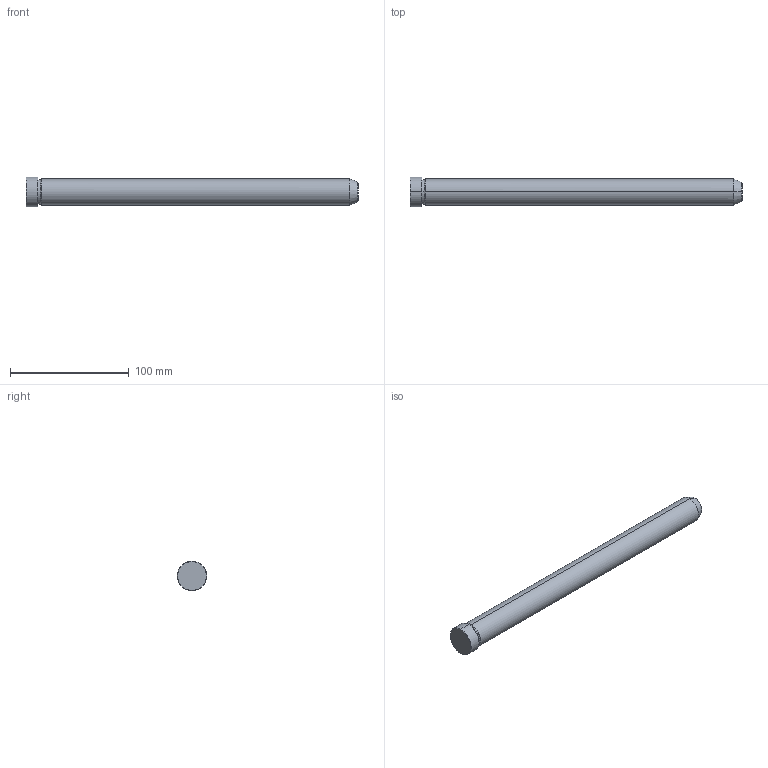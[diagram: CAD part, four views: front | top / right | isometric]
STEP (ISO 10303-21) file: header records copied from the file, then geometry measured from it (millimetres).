
FILE_DESCRIPTION(('CATIA V5 STEP Exchange'),'2;1');
FILE_NAME('C:\Users\Utente\Desktop\IO LAVORO\3D X SITO CF\X SITO\PLASTICA\549\549-22X280.stp','2021-12-13T13:02:02+00:00',('none'),('none'),'CATIA Version 5 Release 20 GA (IN-10)','CATIA V5 STEP AP203','none');
FILE_SCHEMA(('CONFIG_CONTROL_DESIGN'));
Length unit declared in the file: millimetre
Products named in the file (1): 549-22X280
Bounding box: 280 x 25 x 25 mm (x, y, z)
Volume: 106825.7 mm3; surface area: 20227.6 mm2
Topology: 1 solids, 1 shells, 19 faces, 56 edges, 40 vertices
Faces by surface type: cone 8, cylinder 6, plane 3, torus 2
Entity records: 736 total; most frequent: CARTESIAN_POINT 192, ORIENTED_EDGE 112, DIRECTION 86, EDGE_CURVE 56, AXIS2_PLACEMENT_3D 54, VERTEX_POINT 40, CIRCLE 34, EDGE_LOOP 20
